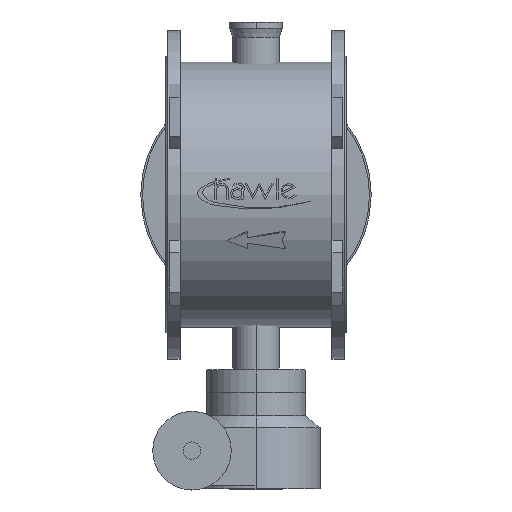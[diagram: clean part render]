
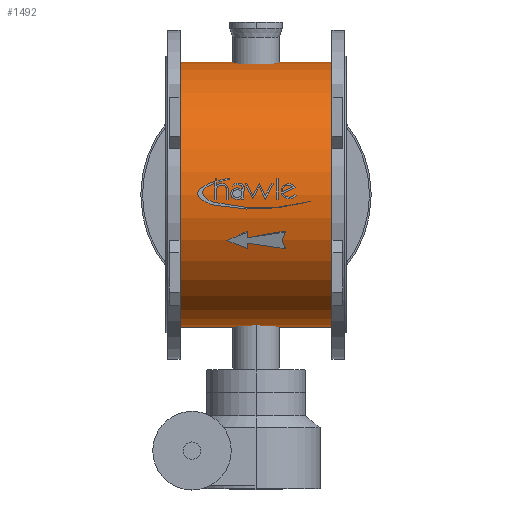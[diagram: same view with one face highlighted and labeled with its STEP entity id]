
A CAD part, top view. The second image highlights one B-rep face of the part: STEP entity #1492.
In plain terms, the highlighted cylindrical face has radius 228 mm (diameter 456 mm), a partial arc.
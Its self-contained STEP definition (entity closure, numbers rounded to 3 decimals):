
#1492=ADVANCED_FACE('',(#2861),#2862,.T.);
#2861=FACE_OUTER_BOUND('',#4419,.T.);
#2862=CYLINDRICAL_SURFACE('',#4420,228.0);
#4419=EDGE_LOOP('',(#7151,#7152,#7153,#7154));
#4420=AXIS2_PLACEMENT_3D('',#7155,#7156,#7157);
#7151=ORIENTED_EDGE('',*,*,#8437,.T.);
#7152=ORIENTED_EDGE('',*,*,#9231,.T.);
#7153=ORIENTED_EDGE('',*,*,#8439,.T.);
#7154=ORIENTED_EDGE('',*,*,#8862,.T.);
#7155=CARTESIAN_POINT('',(-285.5,0.,0.0));
#7156=DIRECTION('',(1.0,0.,0.0));
#7157=DIRECTION('',(0.,-1.0,0.0));
#8437=EDGE_CURVE('',#9954,#9955,#9956,.T.);
#8439=EDGE_CURVE('',#9959,#9957,#9960,.T.);
#8862=EDGE_CURVE('',#9957,#9954,#10615,.T.);
#9231=EDGE_CURVE('',#9955,#9959,#11090,.T.);
#9954=VERTEX_POINT('',#11975);
#9955=VERTEX_POINT('',#11976);
#9956=LINE('',#11977,#11978);
#9957=VERTEX_POINT('',#11979);
#9959=VERTEX_POINT('',#11981);
#9960=LINE('',#11982,#11983);
#10615=CIRCLE('',#12815,228.0);
#11090=CIRCLE('',#13411,228.0);
#11975=CARTESIAN_POINT('',(-285.5,-228.0,0.0));
#11976=CARTESIAN_POINT('',(-24.5,-228.0,0.0));
#11977=CARTESIAN_POINT('',(-285.5,-228.0,0.));
#11978=VECTOR('',#14087,1.0);
#11979=CARTESIAN_POINT('',(-285.5,228.0,0.));
#11981=CARTESIAN_POINT('',(-24.5,228.0,0.));
#11982=CARTESIAN_POINT('',(-285.5,228.0,0.));
#11983=VECTOR('',#14091,1.0);
#12815=AXIS2_PLACEMENT_3D('',#14650,#14651,#14652);
#13411=AXIS2_PLACEMENT_3D('',#15158,#15159,#15160);
#14087=DIRECTION('',(1.0,0.,0.0));
#14091=DIRECTION('',(-1.0,0.,-0.0));
#14650=CARTESIAN_POINT('',(-285.5,0.,0.0));
#14651=DIRECTION('',(1.0,0.,0.0));
#14652=DIRECTION('',(0.,-1.0,0.0));
#15158=CARTESIAN_POINT('',(-24.5,0.,0.0));
#15159=DIRECTION('',(-1.0,0.,0.0));
#15160=DIRECTION('',(0.,-1.0,0.0));
